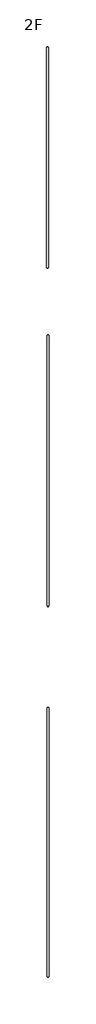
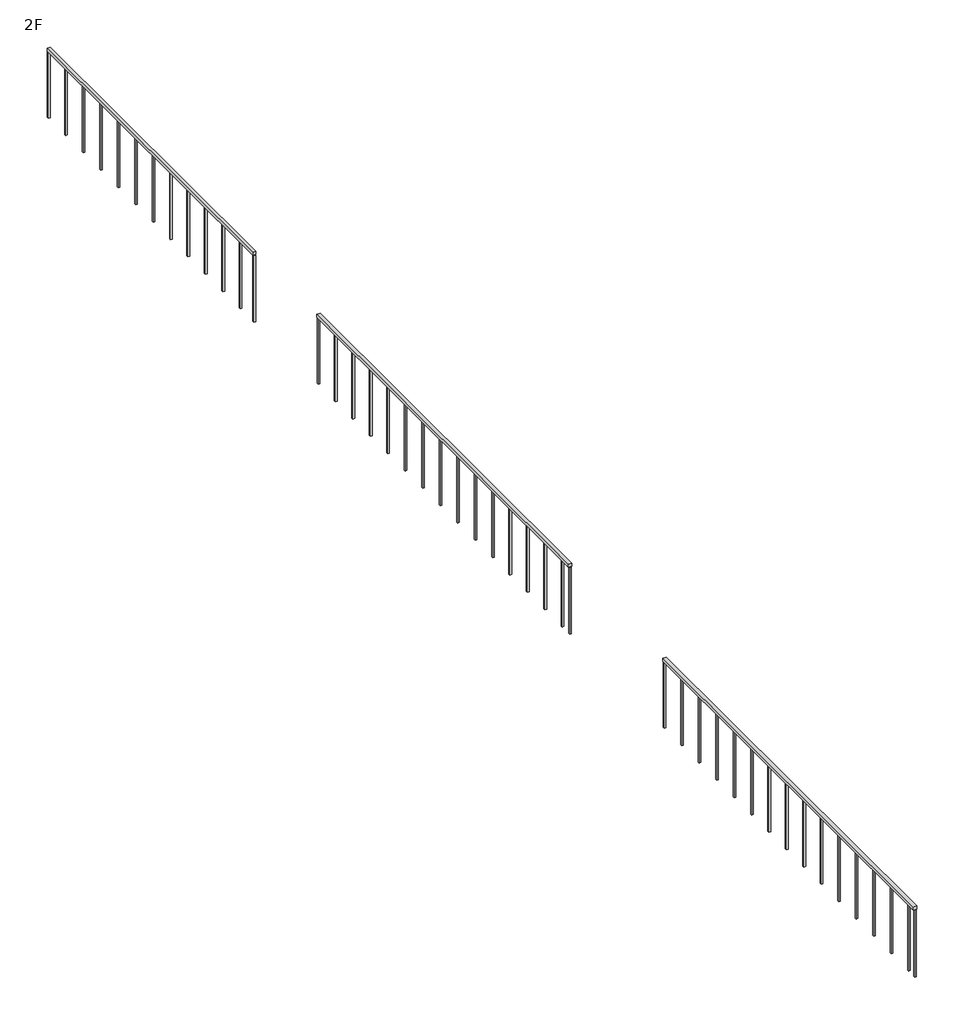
# One storey: 3 railings.
"""IFC4 building model written with IfcOpenShell, lengths in millimetres."""

from ifc_helpers import new_model, si_unit, frame, origin, place, context, project, spatial, polyline, outline, extrude, element, save

model = new_model("IFC4")

# Units and contexts
model_context = context("Model", 3, world=origin())
ifc_project = project(units=[si_unit("LENGTHUNIT", "METRE", prefix="MILLI")], contexts=[model_context])

# Site, building, storey
site = spatial("IfcSite", under=ifc_project)
building = spatial("IfcBuilding", under=site)
storey = spatial("IfcBuildingStorey", under=building, Name="2F", Elevation=4000.0)

# Railings
placement = place(None, origin())
element("IfcRailing", 1, ObjectType="1100mm", at=placement, inside=storey, context=model_context, shape_type="SweptSolid", body=[
    extrude(outline(polyline([(-7344.1310056, 620.0950739), (-7294.1310056, 620.0950739), (-7294.1310056, -4679.9049261), (-7344.1310056, -4679.9049261), (-7344.1310056, 620.0950739)])), frame((0.0, 0.0, 5050.0), z_axis=(0.0, 0.0, 1.0), x_axis=(1.0, 0.0, 0.0)), (0.0, 0.0, 1.0), 50.0),
    extrude(outline(polyline([(-7331.6310056, -4317.4049261), (-7306.6310056, -4317.4049261), (-7306.6310056, -4342.4049261), (-7331.6310056, -4342.4049261), (-7331.6310056, -4317.4049261)])), frame((0.0, 0.0, 4000.0), z_axis=(0.0, 0.0, 1.0), x_axis=(1.0, 0.0, 0.0)), (0.0, 0.0, 1.0), 1050.0),
    extrude(outline(polyline([(-7331.6310056, -3867.4049261), (-7306.6310056, -3867.4049261), (-7306.6310056, -3892.4049261), (-7331.6310056, -3892.4049261), (-7331.6310056, -3867.4049261)])), frame((0.0, 0.0, 4000.0), z_axis=(0.0, 0.0, 1.0), x_axis=(1.0, 0.0, 0.0)), (0.0, 0.0, 1.0), 1050.0),
    extrude(outline(polyline([(-7331.6310056, -3417.4049261), (-7306.6310056, -3417.4049261), (-7306.6310056, -3442.4049261), (-7331.6310056, -3442.4049261), (-7331.6310056, -3417.4049261)])), frame((0.0, 0.0, 4000.0), z_axis=(0.0, 0.0, 1.0), x_axis=(1.0, 0.0, 0.0)), (0.0, 0.0, 1.0), 1050.0),
    extrude(outline(polyline([(-7331.6310056, -2967.4049261), (-7306.6310056, -2967.4049261), (-7306.6310056, -2992.4049261), (-7331.6310056, -2992.4049261), (-7331.6310056, -2967.4049261)])), frame((0.0, 0.0, 4000.0), z_axis=(0.0, 0.0, 1.0), x_axis=(1.0, 0.0, 0.0)), (0.0, 0.0, 1.0), 1050.0),
    extrude(outline(polyline([(-7331.6310056, -2517.4049261), (-7306.6310056, -2517.4049261), (-7306.6310056, -2542.4049261), (-7331.6310056, -2542.4049261), (-7331.6310056, -2517.4049261)])), frame((0.0, 0.0, 4000.0), z_axis=(0.0, 0.0, 1.0), x_axis=(1.0, 0.0, 0.0)), (0.0, 0.0, 1.0), 1050.0),
    extrude(outline(polyline([(-7331.6310056, -2067.4049261), (-7306.6310056, -2067.4049261), (-7306.6310056, -2092.4049261), (-7331.6310056, -2092.4049261), (-7331.6310056, -2067.4049261)])), frame((0.0, 0.0, 4000.0), z_axis=(0.0, 0.0, 1.0), x_axis=(1.0, 0.0, 0.0)), (0.0, 0.0, 1.0), 1050.0),
    extrude(outline(polyline([(-7331.6310056, -1617.4049261), (-7306.6310056, -1617.4049261), (-7306.6310056, -1642.4049261), (-7331.6310056, -1642.4049261), (-7331.6310056, -1617.4049261)])), frame((0.0, 0.0, 4000.0), z_axis=(0.0, 0.0, 1.0), x_axis=(1.0, 0.0, 0.0)), (0.0, 0.0, 1.0), 1050.0),
    extrude(outline(polyline([(-7331.6310056, -1167.4049261), (-7306.6310056, -1167.4049261), (-7306.6310056, -1192.4049261), (-7331.6310056, -1192.4049261), (-7331.6310056, -1167.4049261)])), frame((0.0, 0.0, 4000.0), z_axis=(0.0, 0.0, 1.0), x_axis=(1.0, 0.0, 0.0)), (0.0, 0.0, 1.0), 1050.0),
    extrude(outline(polyline([(-7331.6310056, -717.4049261), (-7306.6310056, -717.4049261), (-7306.6310056, -742.4049261), (-7331.6310056, -742.4049261), (-7331.6310056, -717.4049261)])), frame((0.0, 0.0, 4000.0), z_axis=(0.0, 0.0, 1.0), x_axis=(1.0, 0.0, 0.0)), (0.0, 0.0, 1.0), 1050.0),
    extrude(outline(polyline([(-7331.6310056, -267.4049261), (-7306.6310056, -267.4049261), (-7306.6310056, -292.4049261), (-7331.6310056, -292.4049261), (-7331.6310056, -267.4049261)])), frame((0.0, 0.0, 4000.0), z_axis=(0.0, 0.0, 1.0), x_axis=(1.0, 0.0, 0.0)), (0.0, 0.0, 1.0), 1050.0),
    extrude(outline(polyline([(-7331.6310056, 182.5950739), (-7306.6310056, 182.5950739), (-7306.6310056, 157.5950739), (-7331.6310056, 157.5950739), (-7331.6310056, 182.5950739)])), frame((0.0, 0.0, 4000.0), z_axis=(0.0, 0.0, 1.0), x_axis=(1.0, 0.0, 0.0)), (0.0, 0.0, 1.0), 1050.0),
    extrude(outline(polyline([(-7331.6310056, -4667.4049261), (-7306.6310056, -4667.4049261), (-7306.6310056, -4692.4049261), (-7331.6310056, -4692.4049261), (-7331.6310056, -4667.4049261)])), frame((0.0, 0.0, 4000.0), z_axis=(0.0, 0.0, 1.0), x_axis=(1.0, 0.0, 0.0)), (0.0, 0.0, 1.0), 1050.0),
    extrude(outline(polyline([(-7331.6310056, 632.5950739), (-7306.6310056, 632.5950739), (-7306.6310056, 607.5950739), (-7331.6310056, 607.5950739), (-7331.6310056, 632.5950739)])), frame((0.0, 0.0, 4000.0), z_axis=(0.0, 0.0, 1.0), x_axis=(1.0, 0.0, 0.0)), (0.0, 0.0, 1.0), 1050.0),
])
element("IfcRailing", 2, ObjectType="1100mm", at=placement, inside=storey, context=model_context, shape_type="SweptSolid", body=[
    extrude(outline(polyline([(-7324.1310056, -6299.9049261), (-7274.1310056, -6299.9049261), (-7274.1310056, -12789.9049261), (-7324.1310056, -12789.9049261), (-7324.1310056, -6299.9049261)])), frame((0.0, 0.0, 5050.0), z_axis=(0.0, 0.0, 1.0), x_axis=(1.0, 0.0, 0.0)), (0.0, 0.0, 1.0), 50.0),
    extrude(outline(polyline([(-7311.6310056, -12587.4049261), (-7286.6310056, -12587.4049261), (-7286.6310056, -12612.4049261), (-7311.6310056, -12612.4049261), (-7311.6310056, -12587.4049261)])), frame((0.0, 0.0, 4000.0), z_axis=(0.0, 0.0, 1.0), x_axis=(1.0, 0.0, 0.0)), (0.0, 0.0, 1.0), 1050.0),
    extrude(outline(polyline([(-7311.6310056, -12137.4049261), (-7286.6310056, -12137.4049261), (-7286.6310056, -12162.4049261), (-7311.6310056, -12162.4049261), (-7311.6310056, -12137.4049261)])), frame((0.0, 0.0, 4000.0), z_axis=(0.0, 0.0, 1.0), x_axis=(1.0, 0.0, 0.0)), (0.0, 0.0, 1.0), 1050.0),
    extrude(outline(polyline([(-7311.6310056, -11687.4049261), (-7286.6310056, -11687.4049261), (-7286.6310056, -11712.4049261), (-7311.6310056, -11712.4049261), (-7311.6310056, -11687.4049261)])), frame((0.0, 0.0, 4000.0), z_axis=(0.0, 0.0, 1.0), x_axis=(1.0, 0.0, 0.0)), (0.0, 0.0, 1.0), 1050.0),
    extrude(outline(polyline([(-7311.6310056, -11237.4049261), (-7286.6310056, -11237.4049261), (-7286.6310056, -11262.4049261), (-7311.6310056, -11262.4049261), (-7311.6310056, -11237.4049261)])), frame((0.0, 0.0, 4000.0), z_axis=(0.0, 0.0, 1.0), x_axis=(1.0, 0.0, 0.0)), (0.0, 0.0, 1.0), 1050.0),
    extrude(outline(polyline([(-7311.6310056, -10787.4049261), (-7286.6310056, -10787.4049261), (-7286.6310056, -10812.4049261), (-7311.6310056, -10812.4049261), (-7311.6310056, -10787.4049261)])), frame((0.0, 0.0, 4000.0), z_axis=(0.0, 0.0, 1.0), x_axis=(1.0, 0.0, 0.0)), (0.0, 0.0, 1.0), 1050.0),
    extrude(outline(polyline([(-7311.6310056, -10337.4049261), (-7286.6310056, -10337.4049261), (-7286.6310056, -10362.4049261), (-7311.6310056, -10362.4049261), (-7311.6310056, -10337.4049261)])), frame((0.0, 0.0, 4000.0), z_axis=(0.0, 0.0, 1.0), x_axis=(1.0, 0.0, 0.0)), (0.0, 0.0, 1.0), 1050.0),
    extrude(outline(polyline([(-7311.6310056, -9887.4049261), (-7286.6310056, -9887.4049261), (-7286.6310056, -9912.4049261), (-7311.6310056, -9912.4049261), (-7311.6310056, -9887.4049261)])), frame((0.0, 0.0, 4000.0), z_axis=(0.0, 0.0, 1.0), x_axis=(1.0, 0.0, 0.0)), (0.0, 0.0, 1.0), 1050.0),
    extrude(outline(polyline([(-7311.6310056, -9437.4049261), (-7286.6310056, -9437.4049261), (-7286.6310056, -9462.4049261), (-7311.6310056, -9462.4049261), (-7311.6310056, -9437.4049261)])), frame((0.0, 0.0, 4000.0), z_axis=(0.0, 0.0, 1.0), x_axis=(1.0, 0.0, 0.0)), (0.0, 0.0, 1.0), 1050.0),
    extrude(outline(polyline([(-7311.6310056, -8987.4049261), (-7286.6310056, -8987.4049261), (-7286.6310056, -9012.4049261), (-7311.6310056, -9012.4049261), (-7311.6310056, -8987.4049261)])), frame((0.0, 0.0, 4000.0), z_axis=(0.0, 0.0, 1.0), x_axis=(1.0, 0.0, 0.0)), (0.0, 0.0, 1.0), 1050.0),
    extrude(outline(polyline([(-7311.6310056, -8537.4049261), (-7286.6310056, -8537.4049261), (-7286.6310056, -8562.4049261), (-7311.6310056, -8562.4049261), (-7311.6310056, -8537.4049261)])), frame((0.0, 0.0, 4000.0), z_axis=(0.0, 0.0, 1.0), x_axis=(1.0, 0.0, 0.0)), (0.0, 0.0, 1.0), 1050.0),
    extrude(outline(polyline([(-7311.6310056, -8087.4049261), (-7286.6310056, -8087.4049261), (-7286.6310056, -8112.4049261), (-7311.6310056, -8112.4049261), (-7311.6310056, -8087.4049261)])), frame((0.0, 0.0, 4000.0), z_axis=(0.0, 0.0, 1.0), x_axis=(1.0, 0.0, 0.0)), (0.0, 0.0, 1.0), 1050.0),
    extrude(outline(polyline([(-7311.6310056, -7637.4049261), (-7286.6310056, -7637.4049261), (-7286.6310056, -7662.4049261), (-7311.6310056, -7662.4049261), (-7311.6310056, -7637.4049261)])), frame((0.0, 0.0, 4000.0), z_axis=(0.0, 0.0, 1.0), x_axis=(1.0, 0.0, 0.0)), (0.0, 0.0, 1.0), 1050.0),
    extrude(outline(polyline([(-7311.6310056, -7187.4049261), (-7286.6310056, -7187.4049261), (-7286.6310056, -7212.4049261), (-7311.6310056, -7212.4049261), (-7311.6310056, -7187.4049261)])), frame((0.0, 0.0, 4000.0), z_axis=(0.0, 0.0, 1.0), x_axis=(1.0, 0.0, 0.0)), (0.0, 0.0, 1.0), 1050.0),
    extrude(outline(polyline([(-7311.6310056, -6737.4049261), (-7286.6310056, -6737.4049261), (-7286.6310056, -6762.4049261), (-7311.6310056, -6762.4049261), (-7311.6310056, -6737.4049261)])), frame((0.0, 0.0, 4000.0), z_axis=(0.0, 0.0, 1.0), x_axis=(1.0, 0.0, 0.0)), (0.0, 0.0, 1.0), 1050.0),
    extrude(outline(polyline([(-7311.6310056, -12777.4049261), (-7286.6310056, -12777.4049261), (-7286.6310056, -12802.4049261), (-7311.6310056, -12802.4049261), (-7311.6310056, -12777.4049261)])), frame((0.0, 0.0, 4000.0), z_axis=(0.0, 0.0, 1.0), x_axis=(1.0, 0.0, 0.0)), (0.0, 0.0, 1.0), 1050.0),
    extrude(outline(polyline([(-7311.6310056, -6287.4049261), (-7286.6310056, -6287.4049261), (-7286.6310056, -6312.4049261), (-7311.6310056, -6312.4049261), (-7311.6310056, -6287.4049261)])), frame((0.0, 0.0, 4000.0), z_axis=(0.0, 0.0, 1.0), x_axis=(1.0, 0.0, 0.0)), (0.0, 0.0, 1.0), 1050.0),
])
element("IfcRailing", 3, ObjectType="1100mm", at=placement, inside=storey, context=model_context, shape_type="SweptSolid", body=[
    extrude(outline(polyline([(-7324.1310056, -15229.9549261), (-7274.1310056, -15229.9549261), (-7274.1310056, -21689.9549261), (-7324.1310056, -21689.9549261), (-7324.1310056, -15229.9549261)])), frame((0.0, 0.0, 5050.0), z_axis=(0.0, 0.0, 1.0), x_axis=(1.0, 0.0, 0.0)), (0.0, 0.0, 1.0), 50.0),
    extrude(outline(polyline([(-7311.6310056, -21517.4549261), (-7286.6310056, -21517.4549261), (-7286.6310056, -21542.4549261), (-7311.6310056, -21542.4549261), (-7311.6310056, -21517.4549261)])), frame((0.0, 0.0, 4000.0), z_axis=(0.0, 0.0, 1.0), x_axis=(1.0, 0.0, 0.0)), (0.0, 0.0, 1.0), 1050.0),
    extrude(outline(polyline([(-7311.6310056, -21067.4549261), (-7286.6310056, -21067.4549261), (-7286.6310056, -21092.4549261), (-7311.6310056, -21092.4549261), (-7311.6310056, -21067.4549261)])), frame((0.0, 0.0, 4000.0), z_axis=(0.0, 0.0, 1.0), x_axis=(1.0, 0.0, 0.0)), (0.0, 0.0, 1.0), 1050.0),
    extrude(outline(polyline([(-7311.6310056, -20617.4549261), (-7286.6310056, -20617.4549261), (-7286.6310056, -20642.4549261), (-7311.6310056, -20642.4549261), (-7311.6310056, -20617.4549261)])), frame((0.0, 0.0, 4000.0), z_axis=(0.0, 0.0, 1.0), x_axis=(1.0, 0.0, 0.0)), (0.0, 0.0, 1.0), 1050.0),
    extrude(outline(polyline([(-7311.6310056, -20167.4549261), (-7286.6310056, -20167.4549261), (-7286.6310056, -20192.4549261), (-7311.6310056, -20192.4549261), (-7311.6310056, -20167.4549261)])), frame((0.0, 0.0, 4000.0), z_axis=(0.0, 0.0, 1.0), x_axis=(1.0, 0.0, 0.0)), (0.0, 0.0, 1.0), 1050.0),
    extrude(outline(polyline([(-7311.6310056, -19717.4549261), (-7286.6310056, -19717.4549261), (-7286.6310056, -19742.4549261), (-7311.6310056, -19742.4549261), (-7311.6310056, -19717.4549261)])), frame((0.0, 0.0, 4000.0), z_axis=(0.0, 0.0, 1.0), x_axis=(1.0, 0.0, 0.0)), (0.0, 0.0, 1.0), 1050.0),
    extrude(outline(polyline([(-7311.6310056, -19267.4549261), (-7286.6310056, -19267.4549261), (-7286.6310056, -19292.4549261), (-7311.6310056, -19292.4549261), (-7311.6310056, -19267.4549261)])), frame((0.0, 0.0, 4000.0), z_axis=(0.0, 0.0, 1.0), x_axis=(1.0, 0.0, 0.0)), (0.0, 0.0, 1.0), 1050.0),
    extrude(outline(polyline([(-7311.6310056, -18817.4549261), (-7286.6310056, -18817.4549261), (-7286.6310056, -18842.4549261), (-7311.6310056, -18842.4549261), (-7311.6310056, -18817.4549261)])), frame((0.0, 0.0, 4000.0), z_axis=(0.0, 0.0, 1.0), x_axis=(1.0, 0.0, 0.0)), (0.0, 0.0, 1.0), 1050.0),
    extrude(outline(polyline([(-7311.6310056, -18367.4549261), (-7286.6310056, -18367.4549261), (-7286.6310056, -18392.4549261), (-7311.6310056, -18392.4549261), (-7311.6310056, -18367.4549261)])), frame((0.0, 0.0, 4000.0), z_axis=(0.0, 0.0, 1.0), x_axis=(1.0, 0.0, 0.0)), (0.0, 0.0, 1.0), 1050.0),
    extrude(outline(polyline([(-7311.6310056, -17917.4549261), (-7286.6310056, -17917.4549261), (-7286.6310056, -17942.4549261), (-7311.6310056, -17942.4549261), (-7311.6310056, -17917.4549261)])), frame((0.0, 0.0, 4000.0), z_axis=(0.0, 0.0, 1.0), x_axis=(1.0, 0.0, 0.0)), (0.0, 0.0, 1.0), 1050.0),
    extrude(outline(polyline([(-7311.6310056, -17467.4549261), (-7286.6310056, -17467.4549261), (-7286.6310056, -17492.4549261), (-7311.6310056, -17492.4549261), (-7311.6310056, -17467.4549261)])), frame((0.0, 0.0, 4000.0), z_axis=(0.0, 0.0, 1.0), x_axis=(1.0, 0.0, 0.0)), (0.0, 0.0, 1.0), 1050.0),
    extrude(outline(polyline([(-7311.6310056, -17017.4549261), (-7286.6310056, -17017.4549261), (-7286.6310056, -17042.4549261), (-7311.6310056, -17042.4549261), (-7311.6310056, -17017.4549261)])), frame((0.0, 0.0, 4000.0), z_axis=(0.0, 0.0, 1.0), x_axis=(1.0, 0.0, 0.0)), (0.0, 0.0, 1.0), 1050.0),
    extrude(outline(polyline([(-7311.6310056, -16567.4549261), (-7286.6310056, -16567.4549261), (-7286.6310056, -16592.4549261), (-7311.6310056, -16592.4549261), (-7311.6310056, -16567.4549261)])), frame((0.0, 0.0, 4000.0), z_axis=(0.0, 0.0, 1.0), x_axis=(1.0, 0.0, 0.0)), (0.0, 0.0, 1.0), 1050.0),
    extrude(outline(polyline([(-7311.6310056, -16117.4549261), (-7286.6310056, -16117.4549261), (-7286.6310056, -16142.4549261), (-7311.6310056, -16142.4549261), (-7311.6310056, -16117.4549261)])), frame((0.0, 0.0, 4000.0), z_axis=(0.0, 0.0, 1.0), x_axis=(1.0, 0.0, 0.0)), (0.0, 0.0, 1.0), 1050.0),
    extrude(outline(polyline([(-7311.6310056, -15667.4549261), (-7286.6310056, -15667.4549261), (-7286.6310056, -15692.4549261), (-7311.6310056, -15692.4549261), (-7311.6310056, -15667.4549261)])), frame((0.0, 0.0, 4000.0), z_axis=(0.0, 0.0, 1.0), x_axis=(1.0, 0.0, 0.0)), (0.0, 0.0, 1.0), 1050.0),
    extrude(outline(polyline([(-7311.6310056, -21677.4549261), (-7286.6310056, -21677.4549261), (-7286.6310056, -21702.4549261), (-7311.6310056, -21702.4549261), (-7311.6310056, -21677.4549261)])), frame((0.0, 0.0, 4000.0), z_axis=(0.0, 0.0, 1.0), x_axis=(1.0, 0.0, 0.0)), (0.0, 0.0, 1.0), 1050.0),
    extrude(outline(polyline([(-7311.6310056, -15217.4549261), (-7286.6310056, -15217.4549261), (-7286.6310056, -15242.4549261), (-7311.6310056, -15242.4549261), (-7311.6310056, -15217.4549261)])), frame((0.0, 0.0, 4000.0), z_axis=(0.0, 0.0, 1.0), x_axis=(1.0, 0.0, 0.0)), (0.0, 0.0, 1.0), 1050.0),
])

save(model, "model.ifc")
